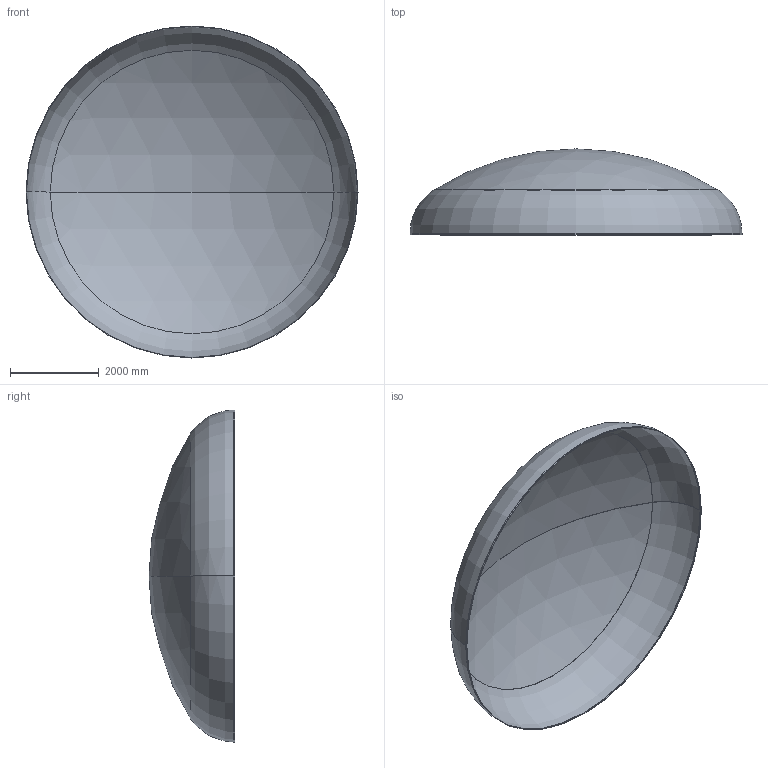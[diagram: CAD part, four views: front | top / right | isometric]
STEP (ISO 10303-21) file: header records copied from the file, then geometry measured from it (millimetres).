
FILE_DESCRIPTION (( 'STEP AP203' ), '1' );
FILE_NAME ('DIN 28013 Korbbogenform_-_Boden DIN 28013 - 7500 x 30 - I - s=9.step', '2016-07-04T10:51:09', ( '' ), ( '' ), 'SwSTEP 2.0', 'SolidWorks 2013', '' );
FILE_SCHEMA (( 'CONFIG_CONTROL_DESIGN' ));
Length unit declared in the file: millimetre
Products named in the file (1): DIN 28013 Korbbogenform_-_Boden DIN 28013 - 7500 x 30 - I - s=9
Bounding box: 7500 x 1941.85 x 7500 mm (x, y, z)
Volume: 556223048.1 mm3; surface area: 123817042.8 mm2
Topology: 1 solids, 1 shells, 13 faces, 24 edges, 14 vertices
Faces by surface type: torus 4, cylinder 4, sphere 4, plane 1
Entity records: 407 total; most frequent: DIRECTION 72, CARTESIAN_POINT 52, ORIENTED_EDGE 48, AXIS2_PLACEMENT_3D 34, EDGE_CURVE 24, CIRCLE 20, VERTEX_POINT 14, EDGE_LOOP 14
